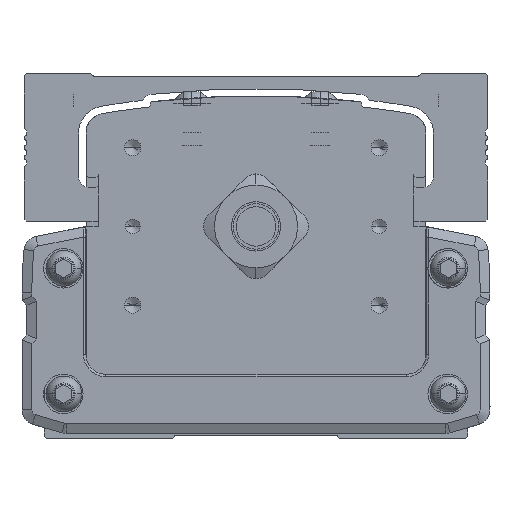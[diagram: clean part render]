
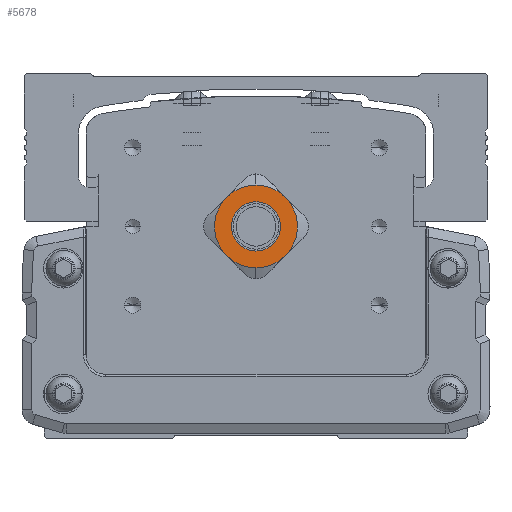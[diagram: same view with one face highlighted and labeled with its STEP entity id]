
A CAD part, front view. The second image highlights one B-rep face of the part: STEP entity #5678.
In plain terms, the highlighted planar face has unit normal (0, -1, 0).
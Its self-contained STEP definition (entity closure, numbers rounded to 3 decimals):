
#5678=ADVANCED_FACE('',(#11505,#11506),#11507,.F.);
#11505=FACE_OUTER_BOUND('',#18921,.T.);
#11506=FACE_BOUND('',#18922,.T.);
#11507=PLANE('',#18923);
#18921=EDGE_LOOP('',(#35911,#35912,#35913,#35914,#35915,#35916));
#18922=EDGE_LOOP('',(#35917,#35918));
#18923=AXIS2_PLACEMENT_3D('',#35919,#35920,#35921);
#35911=ORIENTED_EDGE('',*,*,#42971,.T.);
#35912=ORIENTED_EDGE('',*,*,#42972,.T.);
#35913=ORIENTED_EDGE('',*,*,#42973,.T.);
#35914=ORIENTED_EDGE('',*,*,#42974,.T.);
#35915=ORIENTED_EDGE('',*,*,#42975,.T.);
#35916=ORIENTED_EDGE('',*,*,#42976,.T.);
#35917=ORIENTED_EDGE('',*,*,#42413,.F.);
#35918=ORIENTED_EDGE('',*,*,#42977,.F.);
#35919=CARTESIAN_POINT('',(0.,-261.468,0.127));
#35920=DIRECTION('',(0.,1.0,0.));
#35921=DIRECTION('',(0.,0.,1.0));
#42413=EDGE_CURVE('',#52265,#52261,#52267,.T.);
#42971=EDGE_CURVE('',#48851,#52937,#52938,.T.);
#42972=EDGE_CURVE('',#52937,#52939,#52940,.T.);
#42973=EDGE_CURVE('',#52939,#52941,#52942,.T.);
#42974=EDGE_CURVE('',#52941,#52943,#52944,.T.);
#42975=EDGE_CURVE('',#52943,#52945,#52946,.T.);
#42976=EDGE_CURVE('',#52945,#48851,#52947,.T.);
#42977=EDGE_CURVE('',#52261,#52265,#52948,.T.);
#48851=VERTEX_POINT('',#62100);
#52261=VERTEX_POINT('',#66926);
#52265=VERTEX_POINT('',#66931);
#52267=CIRCLE('',#66934,4.625);
#52937=VERTEX_POINT('',#67831);
#52938=CIRCLE('',#67832,8.413);
#52939=VERTEX_POINT('',#67833);
#52940=CIRCLE('',#67834,8.413);
#52941=VERTEX_POINT('',#67835);
#52942=CIRCLE('',#67836,8.413);
#52943=VERTEX_POINT('',#67837);
#52944=CIRCLE('',#67838,8.413);
#52945=VERTEX_POINT('',#67839);
#52946=CIRCLE('',#67840,8.413);
#52947=CIRCLE('',#67841,8.413);
#52948=CIRCLE('',#67842,4.625);
#62100=CARTESIAN_POINT('',(5.949,-261.468,-5.949));
#66926=CARTESIAN_POINT('',(0.,-261.468,-4.625));
#66931=CARTESIAN_POINT('',(0.,-261.468,4.625));
#66934=AXIS2_PLACEMENT_3D('',#75170,#75171,#75172);
#67831=CARTESIAN_POINT('',(5.949,-261.468,5.949));
#67832=AXIS2_PLACEMENT_3D('',#75626,#75627,#75628);
#67833=CARTESIAN_POINT('',(0.,-261.468,8.412));
#67834=AXIS2_PLACEMENT_3D('',#75629,#75630,#75631);
#67835=CARTESIAN_POINT('',(-5.949,-261.468,5.949));
#67836=AXIS2_PLACEMENT_3D('',#75632,#75633,#75634);
#67837=CARTESIAN_POINT('',(-5.949,-261.468,-5.949));
#67838=AXIS2_PLACEMENT_3D('',#75635,#75636,#75637);
#67839=CARTESIAN_POINT('',(0.,-261.468,-8.413));
#67840=AXIS2_PLACEMENT_3D('',#75638,#75639,#75640);
#67841=AXIS2_PLACEMENT_3D('',#75641,#75642,#75643);
#67842=AXIS2_PLACEMENT_3D('',#75644,#75645,#75646);
#75170=CARTESIAN_POINT('',(0.,-261.468,0.));
#75171=DIRECTION('',(0.,-1.0,0.));
#75172=DIRECTION('',(0.,0.,-1.0));
#75626=CARTESIAN_POINT('',(0.,-261.468,0.));
#75627=DIRECTION('',(0.,-1.0,0.));
#75628=DIRECTION('',(0.,0.,1.0));
#75629=CARTESIAN_POINT('',(0.,-261.468,0.));
#75630=DIRECTION('',(0.,-1.0,0.));
#75631=DIRECTION('',(0.,0.,1.0));
#75632=CARTESIAN_POINT('',(0.,-261.468,0.));
#75633=DIRECTION('',(0.,-1.0,0.));
#75634=DIRECTION('',(0.,0.,1.0));
#75635=CARTESIAN_POINT('',(0.,-261.468,0.));
#75636=DIRECTION('',(0.,-1.0,0.));
#75637=DIRECTION('',(0.,0.,1.0));
#75638=CARTESIAN_POINT('',(0.,-261.468,0.));
#75639=DIRECTION('',(0.,-1.0,0.));
#75640=DIRECTION('',(0.,0.,1.0));
#75641=CARTESIAN_POINT('',(0.,-261.468,0.));
#75642=DIRECTION('',(0.,-1.0,0.));
#75643=DIRECTION('',(0.,0.,1.0));
#75644=CARTESIAN_POINT('',(0.,-261.468,0.));
#75645=DIRECTION('',(0.,-1.0,0.));
#75646=DIRECTION('',(0.,0.,-1.0));
